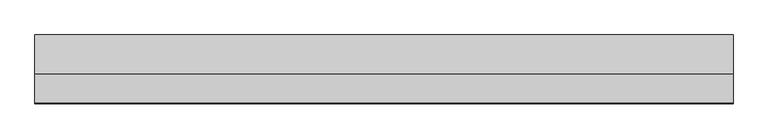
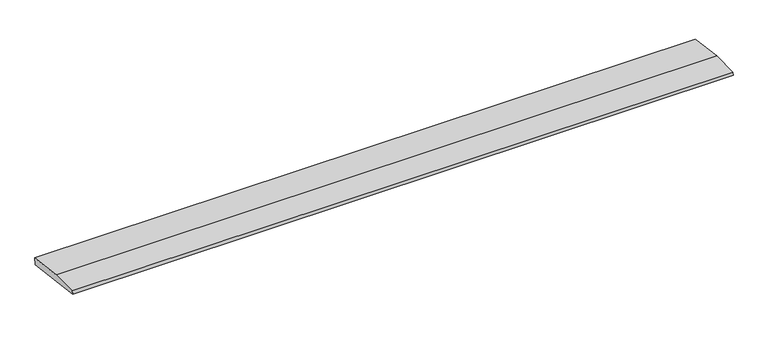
"""IFC4 building model written with IfcOpenShell, lengths in millimetres: beam geometry, weatherboad : weatherboad."""

from ifc_helpers import new_model, si_unit, frame, origin, place, context, project, spatial, polyline, outline, extrude, source, transform, mapped, element, save


def beam_2f0a0f4a(model_context):
    return source(origin(), model_context, "Body", "SweptSolid", [
        extrude(outline(polyline([(0.0, -9.143159), (1.1226388, 0.0), (79.0749747, 0.0), (180.9387048, -12.5072934), (178.6231873, -31.3656703), (0.0, -9.143159)])), frame((-915.8337046, 0.0, 0.0), z_axis=(1.0, 0.0, 0.0), x_axis=(0.0, 1.0, 0.0)), (0.0, 0.0, 1.0), 1831.6674091),
    ])


if __name__ == "__main__":
    model = new_model("IFC4")
    model_context = context("Model", 3, world=origin())
    ifc_project = project(units=[si_unit("LENGTHUNIT", "METRE", prefix="MILLI")], contexts=[model_context])
    site = spatial("IfcSite", under=ifc_project)
    building = spatial("IfcBuilding", under=site)
    placement = place(None, origin())
    beam_shape = beam_2f0a0f4a(model_context)
    element("IfcBeam", 1, ObjectType="weatherboad : weatherboad", at=placement, inside=building, context=model_context, shape_type="MappedRepresentation", body=[
        mapped(beam_shape, transform((0.0, 0.0, 0.0), x_axis=(1.0, 0.0, 0.0), y_axis=(0.0, 1.0, 0.0), z_axis=(0.0, 0.0, 1.0))),
    ])
    save(model, "model.ifc")
